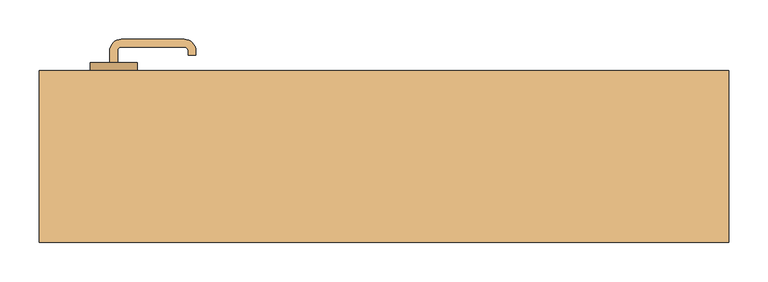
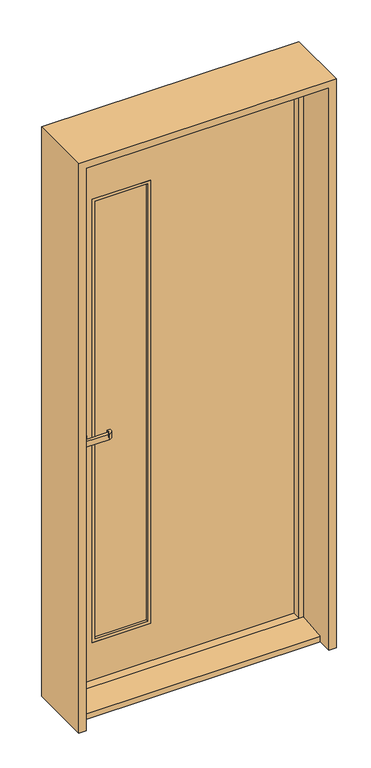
"""IFC4 building model written with IfcOpenShell, lengths in millimetres: door geometry, 140_片開扉_スリットガラリ付 : SD9_H2000W800."""

from ifc_helpers import new_model, si_unit, point, frame, frame_2d, origin, place, context, project, spatial, polyline, circle_curve, trimmed, segment, composite_curve, outline, extrude, faceted_brep, source, transform, mapped, element, save


def door_c7ba6d99(model_context):
    return source(origin(), model_context, "Body", "SolidModel", [
        extrude(outline(composite_curve([segment(polyline([(-350.0, 60.0), (-340.0, 60.0), (-340.0, 45.0)]), True, "CONTINUOUS"), segment(trimmed(circle_curve(frame_2d((-335.0, 45.0)), 5.0), [point((-340.0, 45.0))], [point((-335.0, 40.0))], True, "CARTESIAN"), True, "CONTINUOUS"), segment(polyline([(-335.0, 40.0), (-255.0, 40.0)]), True, "CONTINUOUS"), segment(trimmed(circle_curve(frame_2d((-255.0, 45.0)), 5.0), [point((-255.0, 40.0))], [point((-250.0, 45.0))], True, "CARTESIAN"), True, "CONTINUOUS"), segment(polyline([(-250.0, 45.0), (-250.0, 50.0), (-240.0, 50.0), (-240.0, 45.0)]), True, "CONTINUOUS"), segment(trimmed(circle_curve(frame_2d((-255.0, 45.0)), 15.0), [point((-240.0, 45.0))], [point((-255.0, 30.0))], False, "CARTESIAN"), True, "CONTINUOUS"), segment(polyline([(-255.0, 30.0), (-335.0, 30.0)]), True, "CONTINUOUS"), segment(trimmed(circle_curve(frame_2d((-335.0, 45.0)), 15.0), [point((-335.0, 30.0))], [point((-350.0, 45.0))], False, "CARTESIAN"), True, "CONTINUOUS"), segment(polyline([(-350.0, 45.0), (-350.0, 60.0)]), True, "CONTINUOUS")], self_intersect=False)), frame((0.0, 0.0, 895.0), z_axis=(0.0, 0.0, 1.0), x_axis=(1.0, 0.0, 0.0)), (0.0, 0.0, 1.0), 20.0),
        extrude(outline(composite_curve([segment(trimmed(circle_curve(frame_2d((905.0, -345.0)), 30.0), [point((905.0, -375.0))], [point((905.0, -315.0))], False, "CARTESIAN"), True, "CONTINUOUS"), segment(trimmed(circle_curve(frame_2d((905.0, -345.0)), 30.0), [point((905.0, -315.0))], [point((905.0, -375.0))], False, "CARTESIAN"), True, "CONTINUOUS")], self_intersect=False)), frame((0.0, 60.0, 0.0), z_axis=(0.0, 1.0, 0.0), x_axis=(0.0, 0.0, 1.0)), (0.0, 0.0, 1.0), 10.0),
        extrude(outline(composite_curve([segment(polyline([(-340.0, 120.0), (-350.0, 120.0), (-350.0, 135.0)]), True, "CONTINUOUS"), segment(trimmed(circle_curve(frame_2d((-335.0, 135.0)), 15.0), [point((-350.0, 135.0))], [point((-335.0, 150.0))], False, "CARTESIAN"), True, "CONTINUOUS"), segment(polyline([(-335.0, 150.0), (-255.0, 150.0)]), True, "CONTINUOUS"), segment(trimmed(circle_curve(frame_2d((-255.0, 135.0)), 15.0), [point((-255.0, 150.0))], [point((-240.0, 135.0))], False, "CARTESIAN"), True, "CONTINUOUS"), segment(polyline([(-240.0, 135.0), (-240.0, 130.0), (-250.0, 130.0), (-250.0, 135.0)]), True, "CONTINUOUS"), segment(trimmed(circle_curve(frame_2d((-255.0, 135.0)), 5.0), [point((-250.0, 135.0))], [point((-255.0, 140.0))], True, "CARTESIAN"), True, "CONTINUOUS"), segment(polyline([(-255.0, 140.0), (-335.0, 140.0)]), True, "CONTINUOUS"), segment(trimmed(circle_curve(frame_2d((-335.0, 135.0)), 5.0), [point((-335.0, 140.0))], [point((-340.0, 135.0))], True, "CARTESIAN"), True, "CONTINUOUS"), segment(polyline([(-340.0, 135.0), (-340.0, 120.0)]), True, "CONTINUOUS")], self_intersect=False)), frame((0.0, 0.0, 895.0), z_axis=(0.0, 0.0, 1.0), x_axis=(1.0, 0.0, 0.0)), (0.0, 0.0, 1.0), 20.0),
        extrude(outline(composite_curve([segment(trimmed(circle_curve(frame_2d((905.0, -345.0)), 30.0), [point((905.0, -375.0))], [point((905.0, -315.0))], False, "CARTESIAN"), True, "CONTINUOUS"), segment(trimmed(circle_curve(frame_2d((905.0, -345.0)), 30.0), [point((905.0, -315.0))], [point((905.0, -375.0))], False, "CARTESIAN"), True, "CONTINUOUS")], self_intersect=False)), frame((0.0, 110.0, 0.0), z_axis=(0.0, 1.0, 0.0), x_axis=(0.0, 0.0, 1.0)), (0.0, 0.0, 1.0), 10.0),
        extrude(outline(polyline([(-100.0, 100.0), (-100.0, 80.0), (-280.0, 80.0), (-280.0, 100.0), (-100.0, 100.0)])), frame((0.0, 0.0, 160.0), z_axis=(0.0, 0.0, 1.0), x_axis=(1.0, 0.0, 0.0)), (0.0, 0.0, 1.0), 1580.0),
        extrude(outline(polyline([(150.0, -90.0), (1750.0, -90.0), (1750.0, -290.0), (150.0, -290.0), (150.0, -90.0)]), holes=[polyline([(160.0, -100.0), (160.0, -280.0), (1740.0, -280.0), (1740.0, -100.0), (160.0, -100.0)])]), frame((0.0, 70.0, 0.0), z_axis=(0.0, 1.0, 0.0), x_axis=(0.0, 0.0, 1.0)), (0.0, 0.0, 1.0), 40.0),
        extrude(outline(polyline([(10.0, 410.0), (2010.0, 410.0), (2010.0, -410.0), (10.0, -410.0), (10.0, 410.0)]), holes=[polyline([(150.0, -90.0), (150.0, -290.0), (1750.0, -290.0), (1750.0, -90.0), (150.0, -90.0)])]), frame((0.0, 70.0, 0.0), z_axis=(0.0, 1.0, 0.0), x_axis=(0.0, 0.0, 1.0)), (0.0, 0.0, 1.0), 40.0),
        faceted_brep([(-415.0, 110.0, -15.0), (-415.0, 70.0, -15.0), (-400.0, 70.0, -15.0), (-400.0, 40.0, -15.0), (-415.0, 40.0, -15.0), (-415.0, -110.0, -15.0), (-440.0, -110.0, -15.0), (-440.0, 110.0, -15.0), (-415.0, 110.0, 2015.0), (-415.0, 70.0, 2015.0), (415.0, 70.0, 2015.0), (415.0, 70.0, -15.0), (400.0, 70.0, -15.0), (400.0, 70.0, 2000.0), (-400.0, 70.0, 2000.0), (-400.0, 40.0, 2000.0), (400.0, 40.0, 2000.0), (400.0, 40.0, -15.0), (415.0, 40.0, -15.0), (415.0, 40.0, 2015.0), (-415.0, 40.0, 2015.0), (-415.0, -110.0, 2015.0), (415.0, -110.0, 2015.0), (415.0, -110.0, -15.0), (440.0, -110.0, -15.0), (440.0, -110.0, 2040.0), (-440.0, -110.0, 2040.0), (-440.0, 110.0, 2040.0), (440.0, 110.0, 2040.0), (440.0, 110.0, -15.0), (415.0, 110.0, -15.0), (415.0, 110.0, 2015.0)], [[[0, 1, 2, 3, 4, 5, 6, 7]], [[1, 0, 8, 9]], [[2, 1, 9, 10, 11, 12, 13, 14]], [[3, 2, 14, 15]], [[4, 3, 15, 16, 17, 18, 19, 20]], [[5, 4, 20, 21]], [[6, 5, 21, 22, 23, 24, 25, 26]], [[7, 6, 26, 27]], [[0, 7, 27, 28, 29, 30, 31, 8]], [[9, 8, 31, 10]], [[15, 14, 13, 16]], [[21, 20, 19, 22]], [[27, 26, 25, 28]], [[30, 29, 24, 23, 18, 17, 12, 11]], [[10, 31, 30, 11]], [[16, 13, 12, 17]], [[22, 19, 18, 23]], [[28, 25, 24, 29]]]),
        extrude(outline(polyline([(110.0, 5.0), (110.0, -15.0), (-60.0, -15.0), (-60.0, 5.0), (40.0, 15.0), (70.0, 15.0), (70.0, 5.0), (110.0, 5.0)])), frame((-415.0, 0.0, 0.0), z_axis=(1.0, 0.0, 0.0), x_axis=(0.0, 1.0, 0.0)), (0.0, 0.0, 1.0), 830.0),
    ])


if __name__ == "__main__":
    model = new_model("IFC4")
    model_context = context("Model", 3, world=origin())
    ifc_project = project(units=[si_unit("LENGTHUNIT", "METRE", prefix="MILLI")], contexts=[model_context])
    site = spatial("IfcSite", under=ifc_project)
    building = spatial("IfcBuilding", under=site)
    placement = place(None, origin())
    door_shape = door_c7ba6d99(model_context)
    element("IfcDoor", 1, ObjectType="140_片開扉_スリットガラリ付 : SD9_H2000W800", at=placement, inside=building, context=model_context, shape_type="MappedRepresentation", body=[
        mapped(door_shape, transform((0.0, 0.0, 0.0), x_axis=(1.0, 0.0, 0.0), y_axis=(0.0, 1.0, 0.0), z_axis=(0.0, 0.0, 1.0))),
    ])
    save(model, "model.ifc")
